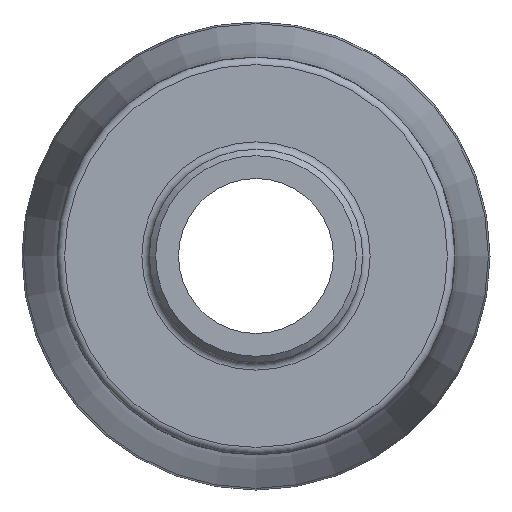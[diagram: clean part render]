
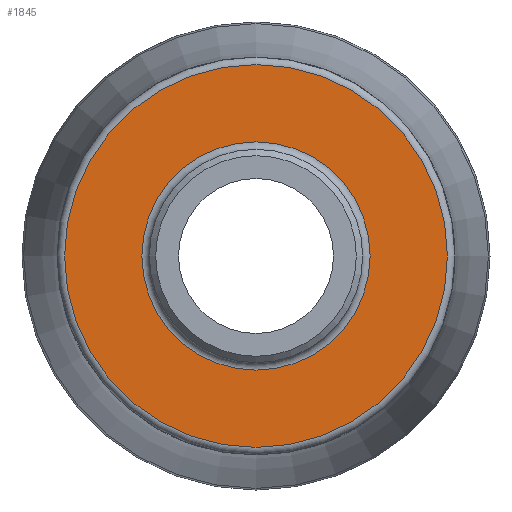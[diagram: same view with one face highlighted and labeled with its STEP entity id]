
A CAD part, left-side view. The second image highlights one B-rep face of the part: STEP entity #1845.
In plain terms, the highlighted planar face has unit normal (-1, 0, 0).
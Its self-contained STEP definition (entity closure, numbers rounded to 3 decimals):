
#194=FACE_BOUND('',#408,.T.);
#208=PLANE('',#2054);
#294=FACE_OUTER_BOUND('',#407,.T.);
#407=EDGE_LOOP('',(#1458,#1459));
#408=EDGE_LOOP('',(#1460,#1461));
#744=CIRCLE('',#2052,14.146);
#745=CIRCLE('',#2053,14.146);
#746=CIRCLE('',#2055,23.725);
#747=CIRCLE('',#2056,23.725);
#881=VERTEX_POINT('',#3251);
#882=VERTEX_POINT('',#3253);
#883=VERTEX_POINT('',#3257);
#884=VERTEX_POINT('',#3258);
#1092=EDGE_CURVE('',#881,#882,#744,.T.);
#1093=EDGE_CURVE('',#882,#881,#745,.T.);
#1094=EDGE_CURVE('',#883,#884,#746,.T.);
#1095=EDGE_CURVE('',#884,#883,#747,.T.);
#1458=ORIENTED_EDGE('',*,*,#1094,.F.);
#1459=ORIENTED_EDGE('',*,*,#1095,.F.);
#1460=ORIENTED_EDGE('',*,*,#1093,.F.);
#1461=ORIENTED_EDGE('',*,*,#1092,.F.);
#1845=ADVANCED_FACE('',(#294,#194),#208,.T.);
#2052=AXIS2_PLACEMENT_3D('',#3254,#2427,#2428);
#2053=AXIS2_PLACEMENT_3D('',#3255,#2429,#2430);
#2054=AXIS2_PLACEMENT_3D('',#3256,#2431,#2432);
#2055=AXIS2_PLACEMENT_3D('',#3259,#2433,#2434);
#2056=AXIS2_PLACEMENT_3D('',#3260,#2435,#2436);
#2427=DIRECTION('center_axis',(-1.,0.,0.));
#2428=DIRECTION('ref_axis',(0.,-1.,0.));
#2429=DIRECTION('center_axis',(-1.,0.,0.));
#2430=DIRECTION('ref_axis',(0.,-1.,0.));
#2431=DIRECTION('center_axis',(-1.,0.,0.));
#2432=DIRECTION('ref_axis',(0.,0.,1.));
#2433=DIRECTION('center_axis',(1.,0.,0.));
#2434=DIRECTION('ref_axis',(0.,-1.,0.));
#2435=DIRECTION('center_axis',(1.,0.,0.));
#2436=DIRECTION('ref_axis',(0.,-1.,0.));
#3251=CARTESIAN_POINT('',(16.,0.,14.146));
#3253=CARTESIAN_POINT('',(16.,14.146,0.));
#3254=CARTESIAN_POINT('Origin',(16.,0.,0.));
#3255=CARTESIAN_POINT('Origin',(16.,0.,0.));
#3256=CARTESIAN_POINT('Origin',(16.,24.65,0.));
#3257=CARTESIAN_POINT('',(16.,23.725,0.));
#3258=CARTESIAN_POINT('',(16.,0.,23.725));
#3259=CARTESIAN_POINT('Origin',(16.,0.,0.));
#3260=CARTESIAN_POINT('Origin',(16.,0.,0.));
